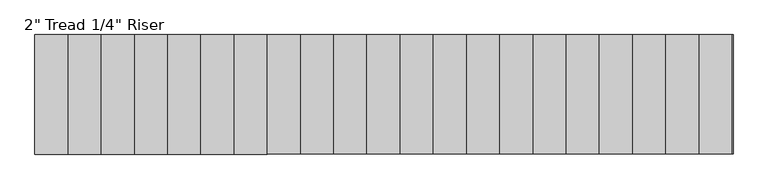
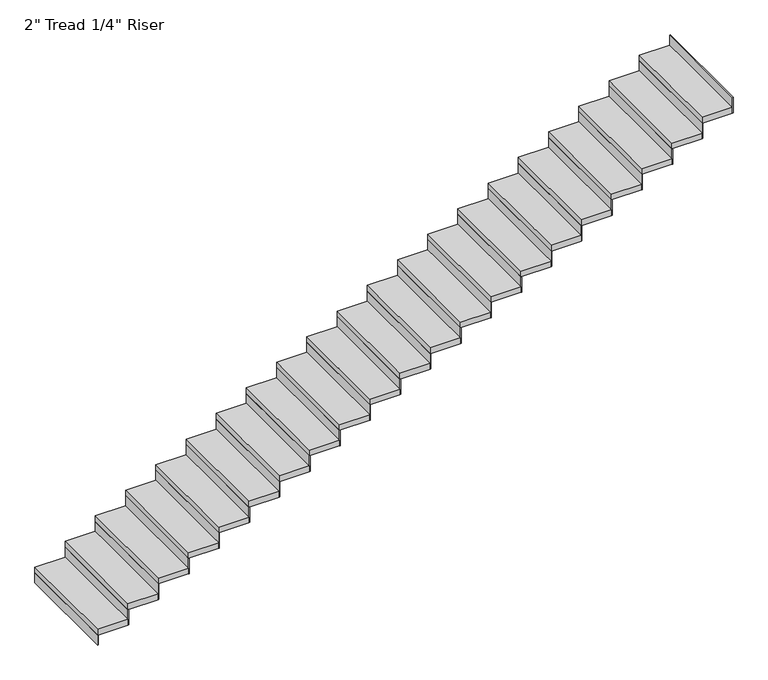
"""IFC4 building model written with IfcOpenShell, lengths in millimetres: stair flight geometry."""

import ifcopenshell
import ifcopenshell.guid

model = None  # the IFC model being written
_history = None  # IfcOwnerHistory: only IFC2X3 demands one
_inside = {}  # id of a spatial element -> (the spatial element, [elements in it])
_under = {}  # id of a project, library or spatial element -> (it, [spatial elements below it])
_declared = {}  # id of a project -> (the project, [libraries it declares])
_typed = {}  # id of a type object -> (the type object, [elements of that type])
_made_of = {}  # id of a material, layer set ... -> (it, [elements and type objects made of it])


def new_model(schema):
    """Start an empty IFC model of exactly this schema.

    Asked for "IFC4X3", IfcOpenShell would pick the latest addendum, in which some entities
    have other attributes; the version numbers below select the first issue.
    IFC2X3 requires an IfcOwnerHistory on every rooted entity: one is made here for all.
    """
    global model, _history
    if schema == "IFC4X3":
        model = ifcopenshell.file(schema_version=(4, 3, 0, 0))
    else:
        model = ifcopenshell.file(schema=schema)
    _inside.clear()
    _under.clear()
    _declared.clear()
    _typed.clear()
    _made_of.clear()
    _history = None
    if model.schema == "IFC2X3":
        org = make("IfcOrganization", Name="unknown")
        user = make(
            "IfcPersonAndOrganization",
            ThePerson=make("IfcPerson", FamilyName="unknown"),
            TheOrganization=org,
        )
        app = make(
            "IfcApplication",
            ApplicationDeveloper=org,
            Version="unknown",
            ApplicationFullName="unknown",
            ApplicationIdentifier="unknown",
        )
        _history = make(
            "IfcOwnerHistory",
            OwningUser=user,
            OwningApplication=app,
            ChangeAction="ADDED",
            CreationDate=0,
        )
    return model


def make(cls, **values):
    """One entity of the class cls with the attributes given. An attribute that is None is left unset."""
    return model.create_entity(
        cls, **{name: value for name, value in values.items() if value is not None}
    )


def rooted(cls, **values):
    """An entity with a GlobalId (a new one), such as an element, a storey or a relation."""
    return make(cls, GlobalId=ifcopenshell.guid.new(), OwnerHistory=_history, **values)


def si_unit(unit_type, name, prefix=None):
    """IfcSIUnit, for example si_unit("LENGTHUNIT", "METRE", prefix="MILLI")."""
    return make("IfcSIUnit", UnitType=unit_type, Prefix=prefix, Name=name)


def assignment(units):
    """IfcUnitAssignment: the units of a project."""
    return None if units is None else make("IfcUnitAssignment", Units=units)


def point(xyz):
    """IfcCartesianPoint."""
    return None if xyz is None else make("IfcCartesianPoint", Coordinates=xyz)


def direction(xyz):
    """IfcDirection."""
    return None if xyz is None else make("IfcDirection", DirectionRatios=xyz)


def frame(location, z_axis=None, x_axis=None):
    """IfcAxis2Placement3D, a coordinate frame: its origin and axes. An axis left out is left unset."""
    return make(
        "IfcAxis2Placement3D",
        Location=point(location),
        Axis=direction(z_axis),
        RefDirection=direction(x_axis),
    )


def origin():
    """The frame at (0, 0, 0) with its axes left unset."""
    return frame((0.0, 0.0, 0.0))


def origin_with_axes():
    """The frame at (0, 0, 0) with the z axis (0, 0, 1) and the x axis (1, 0, 0) written out."""
    return frame((0.0, 0.0, 0.0), z_axis=(0.0, 0.0, 1.0), x_axis=(1.0, 0.0, 0.0))


def place(relative_to, where):
    """IfcLocalPlacement: puts the frame where relative to a parent placement (None: the world)."""
    return make(
        "IfcLocalPlacement", PlacementRelTo=relative_to, RelativePlacement=where
    )


def context(
    kind, dimensions, precision=None, world=None, true_north=None, identifier=None
):
    """IfcGeometricRepresentationContext, for example the 3D "Model" context."""
    return make(
        "IfcGeometricRepresentationContext",
        ContextIdentifier=identifier,
        ContextType=kind,
        CoordinateSpaceDimension=dimensions,
        Precision=precision,
        WorldCoordinateSystem=world,
        TrueNorth=true_north,
    )


def project(units=None, contexts=None):
    """IfcProject with its units and contexts."""
    return rooted(
        "IfcProject",
        Name="project",
        RepresentationContexts=contexts,
        UnitsInContext=assignment(units),
    )


def spatial(cls, under=None, at=None, **own):
    """A site, building, storey or space (cls), placed at a placement, below another one or the project."""
    s = rooted(cls, ObjectPlacement=at, **own)
    if under is not None:
        _under.setdefault(under.id(), (under, []))[1].append(s)
    return s


def polyline(points):
    """IfcPolyline through the points."""
    return make("IfcPolyline", Points=[point(p) for p in points])


def outline(outer, holes=None, kind="AREA"):
    """IfcArbitraryClosedProfileDef: a profile drawn as a closed curve; with holes, ...WithVoids."""
    if holes is None:
        return make("IfcArbitraryClosedProfileDef", ProfileType=kind, OuterCurve=outer)
    return make(
        "IfcArbitraryProfileDefWithVoids",
        ProfileType=kind,
        OuterCurve=outer,
        InnerCurves=holes,
    )


def extrude(swept, where, along, depth):
    """IfcExtrudedAreaSolid: the profile swept, set in the frame where, extruded along a direction by depth."""
    return make(
        "IfcExtrudedAreaSolid",
        SweptArea=swept,
        Position=where,
        ExtrudedDirection=direction(along),
        Depth=depth,
    )


def shape(context_of_items, identifier, shape_type, items):
    """IfcShapeRepresentation: the items that make up one representation, for example the "Body"."""
    return make(
        "IfcShapeRepresentation",
        ContextOfItems=context_of_items,
        RepresentationIdentifier=identifier,
        RepresentationType=shape_type,
        Items=items,
    )


def source(mapping_origin, context_of_items, identifier, shape_type, items):
    """IfcRepresentationMap: a shape defined once, which mapped items show again and again."""
    return make(
        "IfcRepresentationMap",
        MappingOrigin=mapping_origin,
        MappedRepresentation=shape(context_of_items, identifier, shape_type, items),
    )


def transform(
    local_origin,
    x_axis=None,
    y_axis=None,
    z_axis=None,
    scale=None,
    scale2=None,
    scale3=None,
    uniform=True,
):
    """IfcCartesianTransformationOperator3D, or its non-uniform kind. x_axis, y_axis, z_axis: its Axis1, 2, 3."""
    if uniform:
        return make(
            "IfcCartesianTransformationOperator3D",
            Axis1=direction(x_axis),
            Axis2=direction(y_axis),
            LocalOrigin=point(local_origin),
            Scale=scale,
            Axis3=direction(z_axis),
        )
    return make(
        "IfcCartesianTransformationOperator3DnonUniform",
        Axis1=direction(x_axis),
        Axis2=direction(y_axis),
        LocalOrigin=point(local_origin),
        Scale=scale,
        Axis3=direction(z_axis),
        Scale2=scale2,
        Scale3=scale3,
    )


def mapped(mapping_source, mapping_target):
    """IfcMappedItem: shows the shape of a source again, moved by a transform."""
    return make(
        "IfcMappedItem", MappingSource=mapping_source, MappingTarget=mapping_target
    )


def made_of(thing, what):
    """Note that an element or type object is made of a material, layer set ...; save() writes the relation."""
    if what is not None:
        _made_of.setdefault(what.id(), (what, []))[1].append(thing)
    return thing


def element(
    cls,
    number,
    at=None,
    inside=None,
    cuts=None,
    type_object=None,
    material=None,
    context=None,
    identifier="Body",
    shape_type=None,
    held_by="IfcProductDefinitionShape",
    body=None,
    shapes=None,
    **own,
):
    """One element of the class cls, such as IfcWall. Its Tag is "e" and its number.

    at: its placement. inside: the storey or other place that contains it. cuts: it is an
    opening in that element (IfcRelVoidsElement). A single representation is given by context,
    identifier, shape_type and body (its items); several are given by shapes. held_by: the class
    of the entity that holds the representations. save() writes the other relations.
    """
    e = rooted(cls, Tag="e%d" % number, ObjectPlacement=at, **own)
    if body is not None:
        shapes = [shape(context, identifier, shape_type, body)]
    if shapes is not None:
        e.Representation = make(held_by, Representations=shapes)
    if inside is not None:
        _inside.setdefault(inside.id(), (inside, []))[1].append(e)
    if cuts is not None:
        rooted(
            "IfcRelVoidsElement", RelatingBuildingElement=cuts, RelatedOpeningElement=e
        )
    if type_object is not None:
        _typed.setdefault(type_object.id(), (type_object, []))[1].append(e)
    return made_of(e, material)


def aggregate(whole, parts):
    """IfcRelAggregates: a whole, such as a stair, and the parts it consists of."""
    return rooted("IfcRelAggregates", RelatingObject=whole, RelatedObjects=parts)


def save(model, path):
    """Write the relations noted so far, then the file.

    IfcRelAggregates (storeys below a building ...), IfcRelContainedInSpatialStructure (elements
    in a storey), IfcRelDefinesByType, IfcRelAssociatesMaterial and IfcRelDeclares: one each for
    every whole, place, type object, material and project.
    """
    for whole, parts in _under.values():
        aggregate(whole, parts)
    for where, things in _inside.values():
        rooted(
            "IfcRelContainedInSpatialStructure",
            RelatedElements=things,
            RelatingStructure=where,
        )
    for kind, things in _typed.values():
        rooted("IfcRelDefinesByType", RelatedObjects=things, RelatingType=kind)
    for what, things in _made_of.values():
        rooted("IfcRelAssociatesMaterial", RelatedObjects=things, RelatingMaterial=what)
    for by, libraries in _declared.values():
        rooted("IfcRelDeclares", RelatingContext=by, RelatedDefinitions=libraries)
    model.write(path)


def stair_flight_4cdf5e1c(model_context):
    return source(origin(), model_context, "Body", "SweptSolid", [
        extrude(outline(polyline([(13209.8286682, -1704.035031), (13203.4786682, -1704.035031), (13203.4786682, -789.635031), (13209.8286682, -789.635031), (13209.8286682, -1704.035031)])), origin_with_axes(), (0.0, 0.0, 1.0), 87.7454545),
        extrude(outline(polyline([(13457.4786682, -789.635031), (13457.4786682, -1704.035031), (13203.4786682, -1704.035031), (13203.4786682, -789.635031), (13457.4786682, -789.635031)])), frame((0.0, 0.0, 87.7454545), z_axis=(0.0, 0.0, 1.0), x_axis=(1.0, 0.0, 0.0)), (0.0, 0.0, 1.0), 50.8),
        extrude(outline(polyline([(13463.8286682, -1704.035031), (13457.4786682, -1704.035031), (13457.4786682, -789.635031), (13463.8286682, -789.635031), (13463.8286682, -1704.035031)])), frame((0.0, 0.0, 87.7454545), z_axis=(0.0, 0.0, 1.0), x_axis=(1.0, 0.0, 0.0)), (0.0, 0.0, 1.0), 138.5454545),
        extrude(outline(polyline([(13711.4786682, -789.635031), (13711.4786682, -1704.035031), (13457.4786682, -1704.035031), (13457.4786682, -789.635031), (13711.4786682, -789.635031)])), frame((0.0, 0.0, 226.2909091), z_axis=(0.0, 0.0, 1.0), x_axis=(1.0, 0.0, 0.0)), (0.0, 0.0, 1.0), 50.8),
        extrude(outline(polyline([(13717.8286682, -1704.035031), (13711.4786682, -1704.035031), (13711.4786682, -789.635031), (13717.8286682, -789.635031), (13717.8286682, -1704.035031)])), frame((0.0, 0.0, 226.2909091), z_axis=(0.0, 0.0, 1.0), x_axis=(1.0, 0.0, 0.0)), (0.0, 0.0, 1.0), 138.5454545),
        extrude(outline(polyline([(13965.4786682, -789.635031), (13965.4786682, -1704.035031), (13711.4786682, -1704.035031), (13711.4786682, -789.635031), (13965.4786682, -789.635031)])), frame((0.0, 0.0, 364.8363636), z_axis=(0.0, 0.0, 1.0), x_axis=(1.0, 0.0, 0.0)), (0.0, 0.0, 1.0), 50.8),
        extrude(outline(polyline([(13971.8286682, -1704.035031), (13965.4786682, -1704.035031), (13965.4786682, -789.635031), (13971.8286682, -789.635031), (13971.8286682, -1704.035031)])), frame((0.0, 0.0, 364.8363636), z_axis=(0.0, 0.0, 1.0), x_axis=(1.0, 0.0, 0.0)), (0.0, 0.0, 1.0), 138.5454545),
        extrude(outline(polyline([(14219.4786682, -789.635031), (14219.4786682, -1704.035031), (13965.4786682, -1704.035031), (13965.4786682, -789.635031), (14219.4786682, -789.635031)])), frame((0.0, 0.0, 503.3818182), z_axis=(0.0, 0.0, 1.0), x_axis=(1.0, 0.0, 0.0)), (0.0, 0.0, 1.0), 50.8),
        extrude(outline(polyline([(14225.8286682, -1704.035031), (14219.4786682, -1704.035031), (14219.4786682, -789.635031), (14225.8286682, -789.635031), (14225.8286682, -1704.035031)])), frame((0.0, 0.0, 503.3818182), z_axis=(0.0, 0.0, 1.0), x_axis=(1.0, 0.0, 0.0)), (0.0, 0.0, 1.0), 138.5454545),
        extrude(outline(polyline([(14473.4786682, -789.635031), (14473.4786682, -1704.035031), (14219.4786682, -1704.035031), (14219.4786682, -789.635031), (14473.4786682, -789.635031)])), frame((0.0, 0.0, 641.9272727), z_axis=(0.0, 0.0, 1.0), x_axis=(1.0, 0.0, 0.0)), (0.0, 0.0, 1.0), 50.8),
        extrude(outline(polyline([(14479.8286682, -1704.035031), (14473.4786682, -1704.035031), (14473.4786682, -789.635031), (14479.8286682, -789.635031), (14479.8286682, -1704.035031)])), frame((0.0, 0.0, 641.9272727), z_axis=(0.0, 0.0, 1.0), x_axis=(1.0, 0.0, 0.0)), (0.0, 0.0, 1.0), 138.5454545),
        extrude(outline(polyline([(14727.4786682, -789.635031), (14727.4786682, -1704.035031), (14473.4786682, -1704.035031), (14473.4786682, -789.635031), (14727.4786682, -789.635031)])), frame((0.0, 0.0, 780.4727273), z_axis=(0.0, 0.0, 1.0), x_axis=(1.0, 0.0, 0.0)), (0.0, 0.0, 1.0), 50.8),
        extrude(outline(polyline([(14733.8286682, -1704.035031), (14727.4786682, -1704.035031), (14727.4786682, -789.635031), (14733.8286682, -789.635031), (14733.8286682, -1704.035031)])), frame((0.0, 0.0, 780.4727273), z_axis=(0.0, 0.0, 1.0), x_axis=(1.0, 0.0, 0.0)), (0.0, 0.0, 1.0), 138.5454545),
        extrude(outline(polyline([(14981.4786682, -789.635031), (14981.4786682, -1704.035031), (14727.4786682, -1704.035031), (14727.4786682, -789.635031), (14981.4786682, -789.635031)])), frame((0.0, 0.0, 919.0181818), z_axis=(0.0, 0.0, 1.0), x_axis=(1.0, 0.0, 0.0)), (0.0, 0.0, 1.0), 50.8),
        extrude(outline(polyline([(14987.8286682, -1704.035031), (14981.4786682, -1704.035031), (14981.4786682, -789.635031), (14987.8286682, -789.635031), (14987.8286682, -1704.035031)])), frame((0.0, 0.0, 919.0181818), z_axis=(0.0, 0.0, 1.0), x_axis=(1.0, 0.0, 0.0)), (0.0, 0.0, 1.0), 138.5454545),
        extrude(outline(polyline([(15235.4786682, -789.635031), (15235.4786682, -1704.035031), (14981.4786682, -1704.035031), (14981.4786682, -789.635031), (15235.4786682, -789.635031)])), frame((0.0, 0.0, 1057.5636364), z_axis=(0.0, 0.0, 1.0), x_axis=(1.0, 0.0, 0.0)), (0.0, 0.0, 1.0), 50.8),
        extrude(outline(polyline([(15241.8286682, -1704.035031), (15235.4786682, -1704.035031), (15235.4786682, -789.635031), (15241.8286682, -789.635031), (15241.8286682, -1704.035031)])), frame((0.0, 0.0, 1057.5636364), z_axis=(0.0, 0.0, 1.0), x_axis=(1.0, 0.0, 0.0)), (0.0, 0.0, 1.0), 138.5454545),
        extrude(outline(polyline([(15489.4786682, -789.635031), (15489.4786682, -1704.035031), (15235.4786682, -1704.035031), (15235.4786682, -789.635031), (15489.4786682, -789.635031)])), frame((0.0, 0.0, 1196.1090909), z_axis=(0.0, 0.0, 1.0), x_axis=(1.0, 0.0, 0.0)), (0.0, 0.0, 1.0), 50.8),
        extrude(outline(polyline([(15495.8286682, -1704.035031), (15489.4786682, -1704.035031), (15489.4786682, -789.635031), (15495.8286682, -789.635031), (15495.8286682, -1704.035031)])), frame((0.0, 0.0, 1196.1090909), z_axis=(0.0, 0.0, 1.0), x_axis=(1.0, 0.0, 0.0)), (0.0, 0.0, 1.0), 138.5454545),
        extrude(outline(polyline([(15743.4786682, -789.635031), (15743.4786682, -1704.035031), (15489.4786682, -1704.035031), (15489.4786682, -789.635031), (15743.4786682, -789.635031)])), frame((0.0, 0.0, 1334.6545455), z_axis=(0.0, 0.0, 1.0), x_axis=(1.0, 0.0, 0.0)), (0.0, 0.0, 1.0), 50.8),
        extrude(outline(polyline([(15749.8286682, -1704.035031), (15743.4786682, -1704.035031), (15743.4786682, -789.635031), (15749.8286682, -789.635031), (15749.8286682, -1704.035031)])), frame((0.0, 0.0, 1334.6545455), z_axis=(0.0, 0.0, 1.0), x_axis=(1.0, 0.0, 0.0)), (0.0, 0.0, 1.0), 138.5454545),
        extrude(outline(polyline([(15997.4786682, -789.635031), (15997.4786682, -1704.035031), (15743.4786682, -1704.035031), (15743.4786682, -789.635031), (15997.4786682, -789.635031)])), frame((0.0, 0.0, 1473.2), z_axis=(0.0, 0.0, 1.0), x_axis=(1.0, 0.0, 0.0)), (0.0, 0.0, 1.0), 50.8),
        extrude(outline(polyline([(16003.8286682, -1704.035031), (15997.4786682, -1704.035031), (15997.4786682, -789.635031), (16003.8286682, -789.635031), (16003.8286682, -1704.035031)])), frame((0.0, 0.0, 1473.2), z_axis=(0.0, 0.0, 1.0), x_axis=(1.0, 0.0, 0.0)), (0.0, 0.0, 1.0), 138.5454545),
        extrude(outline(polyline([(16251.4786682, -789.635031), (16251.4786682, -1704.035031), (15997.4786682, -1704.035031), (15997.4786682, -789.635031), (16251.4786682, -789.635031)])), frame((0.0, 0.0, 1611.7454545), z_axis=(0.0, 0.0, 1.0), x_axis=(1.0, 0.0, 0.0)), (0.0, 0.0, 1.0), 50.8),
        extrude(outline(polyline([(16257.8286682, -1704.035031), (16251.4786682, -1704.035031), (16251.4786682, -789.635031), (16257.8286682, -789.635031), (16257.8286682, -1704.035031)])), frame((0.0, 0.0, 1611.7454545), z_axis=(0.0, 0.0, 1.0), x_axis=(1.0, 0.0, 0.0)), (0.0, 0.0, 1.0), 138.5454545),
        extrude(outline(polyline([(16505.4786682, -789.635031), (16505.4786682, -1704.035031), (16251.4786682, -1704.035031), (16251.4786682, -789.635031), (16505.4786682, -789.635031)])), frame((0.0, 0.0, 1750.2909091), z_axis=(0.0, 0.0, 1.0), x_axis=(1.0, 0.0, 0.0)), (0.0, 0.0, 1.0), 50.8),
        extrude(outline(polyline([(16511.8286682, -1704.035031), (16505.4786682, -1704.035031), (16505.4786682, -789.635031), (16511.8286682, -789.635031), (16511.8286682, -1704.035031)])), frame((0.0, 0.0, 1750.2909091), z_axis=(0.0, 0.0, 1.0), x_axis=(1.0, 0.0, 0.0)), (0.0, 0.0, 1.0), 138.5454545),
        extrude(outline(polyline([(16759.4786682, -789.635031), (16759.4786682, -1704.035031), (16505.4786682, -1704.035031), (16505.4786682, -789.635031), (16759.4786682, -789.635031)])), frame((0.0, 0.0, 1888.8363636), z_axis=(0.0, 0.0, 1.0), x_axis=(1.0, 0.0, 0.0)), (0.0, 0.0, 1.0), 50.8),
        extrude(outline(polyline([(16765.8286682, -1704.035031), (16759.4786682, -1704.035031), (16759.4786682, -789.635031), (16765.8286682, -789.635031), (16765.8286682, -1704.035031)])), frame((0.0, 0.0, 1888.8363636), z_axis=(0.0, 0.0, 1.0), x_axis=(1.0, 0.0, 0.0)), (0.0, 0.0, 1.0), 138.5454545),
        extrude(outline(polyline([(17013.4786682, -789.635031), (17013.4786682, -1704.035031), (16759.4786682, -1704.035031), (16759.4786682, -789.635031), (17013.4786682, -789.635031)])), frame((0.0, 0.0, 2027.3818182), z_axis=(0.0, 0.0, 1.0), x_axis=(1.0, 0.0, 0.0)), (0.0, 0.0, 1.0), 50.8),
        extrude(outline(polyline([(17019.8286682, -1704.035031), (17013.4786682, -1704.035031), (17013.4786682, -789.635031), (17019.8286682, -789.635031), (17019.8286682, -1704.035031)])), frame((0.0, 0.0, 2027.3818182), z_axis=(0.0, 0.0, 1.0), x_axis=(1.0, 0.0, 0.0)), (0.0, 0.0, 1.0), 138.5454545),
        extrude(outline(polyline([(17267.4786682, -789.635031), (17267.4786682, -1704.035031), (17013.4786682, -1704.035031), (17013.4786682, -789.635031), (17267.4786682, -789.635031)])), frame((0.0, 0.0, 2165.9272727), z_axis=(0.0, 0.0, 1.0), x_axis=(1.0, 0.0, 0.0)), (0.0, 0.0, 1.0), 50.8),
        extrude(outline(polyline([(17273.8286682, -1704.035031), (17267.4786682, -1704.035031), (17267.4786682, -789.635031), (17273.8286682, -789.635031), (17273.8286682, -1704.035031)])), frame((0.0, 0.0, 2165.9272727), z_axis=(0.0, 0.0, 1.0), x_axis=(1.0, 0.0, 0.0)), (0.0, 0.0, 1.0), 138.5454545),
        extrude(outline(polyline([(17521.4786682, -789.635031), (17521.4786682, -1704.035031), (17267.4786682, -1704.035031), (17267.4786682, -789.635031), (17521.4786682, -789.635031)])), frame((0.0, 0.0, 2304.4727273), z_axis=(0.0, 0.0, 1.0), x_axis=(1.0, 0.0, 0.0)), (0.0, 0.0, 1.0), 50.8),
        extrude(outline(polyline([(17527.8286682, -1704.035031), (17521.4786682, -1704.035031), (17521.4786682, -789.635031), (17527.8286682, -789.635031), (17527.8286682, -1704.035031)])), frame((0.0, 0.0, 2304.4727273), z_axis=(0.0, 0.0, 1.0), x_axis=(1.0, 0.0, 0.0)), (0.0, 0.0, 1.0), 138.5454545),
        extrude(outline(polyline([(17775.4786682, -789.635031), (17775.4786682, -1704.035031), (17521.4786682, -1704.035031), (17521.4786682, -789.635031), (17775.4786682, -789.635031)])), frame((0.0, 0.0, 2443.0181818), z_axis=(0.0, 0.0, 1.0), x_axis=(1.0, 0.0, 0.0)), (0.0, 0.0, 1.0), 50.8),
        extrude(outline(polyline([(17781.8286682, -1704.035031), (17775.4786682, -1704.035031), (17775.4786682, -789.635031), (17781.8286682, -789.635031), (17781.8286682, -1704.035031)])), frame((0.0, 0.0, 2443.0181818), z_axis=(0.0, 0.0, 1.0), x_axis=(1.0, 0.0, 0.0)), (0.0, 0.0, 1.0), 138.5454545),
        extrude(outline(polyline([(18029.4786682, -789.635031), (18029.4786682, -1704.035031), (17775.4786682, -1704.035031), (17775.4786682, -789.635031), (18029.4786682, -789.635031)])), frame((0.0, 0.0, 2581.5636364), z_axis=(0.0, 0.0, 1.0), x_axis=(1.0, 0.0, 0.0)), (0.0, 0.0, 1.0), 50.8),
        extrude(outline(polyline([(18035.8286682, -1704.035031), (18029.4786682, -1704.035031), (18029.4786682, -789.635031), (18035.8286682, -789.635031), (18035.8286682, -1704.035031)])), frame((0.0, 0.0, 2581.5636364), z_axis=(0.0, 0.0, 1.0), x_axis=(1.0, 0.0, 0.0)), (0.0, 0.0, 1.0), 138.5454545),
        extrude(outline(polyline([(18283.4786682, -789.635031), (18283.4786682, -1704.035031), (18029.4786682, -1704.035031), (18029.4786682, -789.635031), (18283.4786682, -789.635031)])), frame((0.0, 0.0, 2720.1090909), z_axis=(0.0, 0.0, 1.0), x_axis=(1.0, 0.0, 0.0)), (0.0, 0.0, 1.0), 50.8),
        extrude(outline(polyline([(18289.8286682, -1704.035031), (18283.4786682, -1704.035031), (18283.4786682, -789.635031), (18289.8286682, -789.635031), (18289.8286682, -1704.035031)])), frame((0.0, 0.0, 2720.1090909), z_axis=(0.0, 0.0, 1.0), x_axis=(1.0, 0.0, 0.0)), (0.0, 0.0, 1.0), 138.5454545),
        extrude(outline(polyline([(18543.8286682, -1704.035031), (18537.4786682, -1704.035031), (18537.4786682, -789.635031), (18543.8286682, -789.635031), (18543.8286682, -1704.035031)])), frame((0.0, 0.0, 2858.6545455), z_axis=(0.0, 0.0, 1.0), x_axis=(1.0, 0.0, 0.0)), (0.0, 0.0, 1.0), 138.5454545),
        extrude(outline(polyline([(18537.4786682, -789.635031), (18537.4786682, -1704.035031), (18283.4786682, -1704.035031), (18283.4786682, -789.635031), (18537.4786682, -789.635031)])), frame((0.0, 0.0, 2858.6545455), z_axis=(0.0, 0.0, 1.0), x_axis=(1.0, 0.0, 0.0)), (0.0, 0.0, 1.0), 50.8),
    ])


if __name__ == "__main__":
    model = new_model("IFC4")
    model_context = context("Model", 3, world=origin())
    ifc_project = project(units=[si_unit("LENGTHUNIT", "METRE", prefix="MILLI")], contexts=[model_context])
    site = spatial("IfcSite", under=ifc_project)
    building = spatial("IfcBuilding", under=site)
    placement = place(None, origin())
    stair_flight_shape = stair_flight_4cdf5e1c(model_context)
    element("IfcStairFlight", 1, ObjectType="2\" Tread 1/4\" Riser", at=placement, inside=building, context=model_context, shape_type="MappedRepresentation", body=[
        mapped(stair_flight_shape, transform((0.0, 0.0, 0.0), x_axis=(1.0, 0.0, 0.0), y_axis=(0.0, 1.0, 0.0), z_axis=(0.0, 0.0, 1.0))),
    ])
    save(model, "model.ifc")
